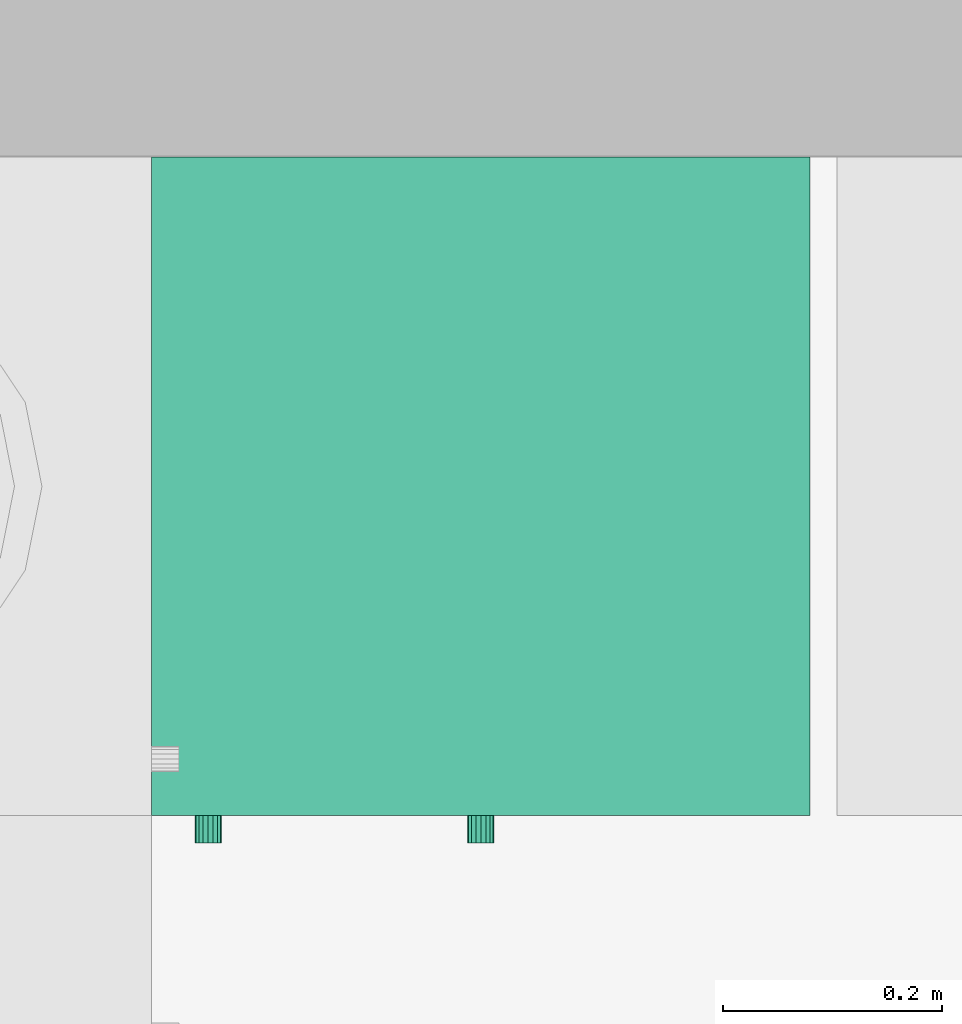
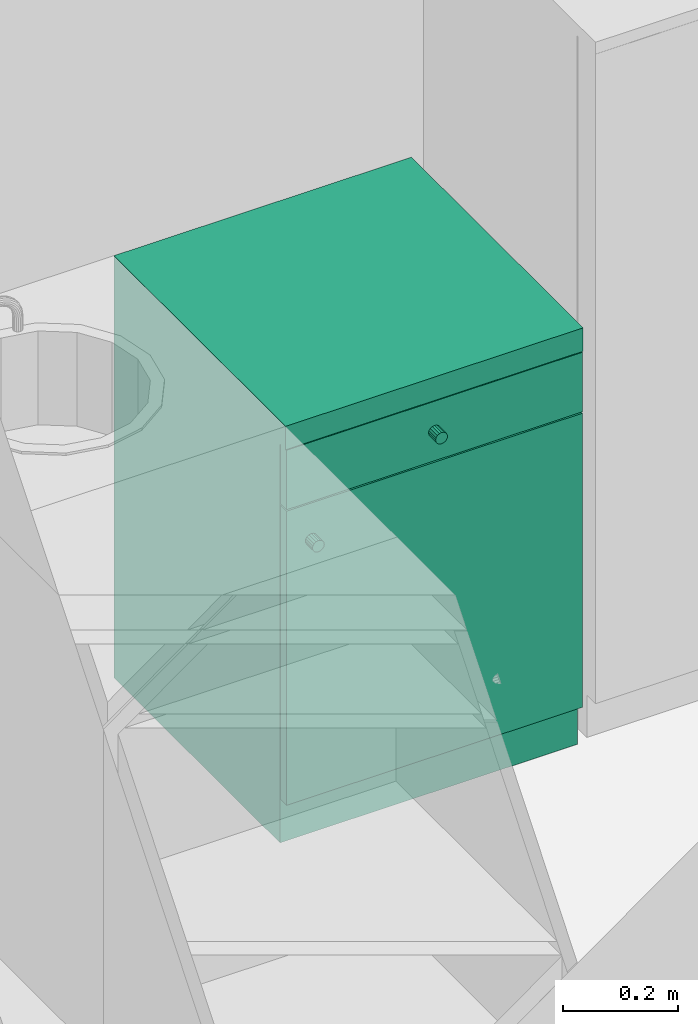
# One storey, part 59 of 172: 1 flow terminal.
"""IFC2X3 building model written with IfcOpenShell, lengths in millimetres."""

from ifc_helpers import new_model, entity, si_unit, converted_unit, money_unit, direction, frame, origin_with_axes, place, context, subcontext, project, spatial, faceted_brep, source, transform, mapped, material, material_list, type_object, element, save


model = new_model("IFC2X3")

# Units and contexts
model_context = context("Model", 3, precision=1e-05, world=origin_with_axes(), true_north=direction((0.0, 1.0)))
body_context = subcontext(model_context, "Body", "Model", "MODEL_VIEW")
ifc_project = project(units=[si_unit("LENGTHUNIT", "METRE", prefix="MILLI"), si_unit("AREAUNIT", "SQUARE_METRE"), si_unit("VOLUMEUNIT", "CUBIC_METRE"), converted_unit("PLANEANGLEUNIT", "DEGREE", entity("IfcPlaneAngleMeasure", 0.0174532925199), si_unit("PLANEANGLEUNIT", "RADIAN"), dimensions=[0, 0, 0, 0, 0, 0, 0]), si_unit("SOLIDANGLEUNIT", "STERADIAN"), money_unit("USD"), converted_unit("TIMEUNIT", "Year", entity("IfcTimeMeasure", 31556926.0), si_unit("TIMEUNIT", "SECOND"), dimensions=[0, 0, 0, 0, 0, 0, 0]), si_unit("MASSUNIT", "GRAM"), si_unit("THERMODYNAMICTEMPERATUREUNIT", "DEGREE_CELSIUS"), si_unit("LUMINOUSINTENSITYUNIT", "LUMEN")], contexts=[model_context])

# Site, building, storey
site_placement = place(None, origin_with_axes())
site = spatial("IfcSite", under=ifc_project, at=site_placement, Name="Site", CompositionType="ELEMENT")
building_placement = place(site_placement, origin_with_axes())
building = spatial("IfcBuilding", under=site, at=building_placement, Name="Building", CompositionType="ELEMENT")
storey_placement = place(building_placement, frame((0.0, 0.0, 3200.0), z_axis=(0.0, 0.0, 1.0), x_axis=(1.0, 0.0, 0.0)))
storey = spatial("IfcBuildingStorey", under=building, at=storey_placement, Name="3KORRUS", CompositionType="ELEMENT", Elevation=3200.0)

# Flow terminal
ifc_material = material(Name="Background")
ifc_material_list = material_list([ifc_material])
sanitary_terminal_type = type_object("IfcSanitaryTerminalType", Name="Cabinet Base Single Door 19", PredefinedType="SINK")
shared_shape = source(origin_with_axes(), body_context, "Body", "Brep", [
    faceted_brep([(-20.0, 20.0, 710.0), (-20.0, 20.0, 730.0), (-580.0, 20.0, 730.0), (-580.0, 20.0, 710.0), (-20.0, 580.0, 710.0), (-20.0, 580.0, 730.0), (-580.0, 580.0, 730.0), (-580.0, 580.0, 710.0)], [[[0, 1, 2, 3]], [[4, 5, 1, 0]], [[1, 5, 6, 2]], [[3, 2, 6, 7]], [[0, 3, 7, 4]], [[7, 6, 5, 4]]]),
    faceted_brep([(0.0, 20.0, 0.0), (0.0, 20.0, 90.0), (-600.0, 20.0, 90.0), (-600.0, 20.0, 0.0), (0.0, 600.0, 0.0), (0.0, 600.0, 90.0), (-600.0, 600.0, 90.0), (-600.0, 600.0, 0.0)], [[[0, 1, 2, 3]], [[4, 5, 1, 0]], [[1, 5, 6, 2]], [[3, 2, 6, 7]], [[0, 3, 7, 4]], [[7, 6, 5, 4]]]),
    faceted_brep([(0.0, 20.0, 830.0), (0.0, 20.0, 850.0), (-20.0, 20.0, 850.0), (-20.0, 20.0, 830.0), (0.0, 600.0, 830.0), (0.0, 600.0, 850.0), (-20.0, 600.0, 850.0), (-580.0, 600.0, 850.0), (-600.0, 600.0, 850.0), (-600.0, 20.0, 850.0), (-580.0, 20.0, 850.0), (-580.0, 20.0, 830.0), (-600.0, 20.0, 830.0), (-600.0, 600.0, 830.0), (-580.0, 600.0, 830.0), (-20.0, 600.0, 830.0)], [[[0, 1, 2, 3]], [[4, 5, 1, 0]], [[1, 5, 6, 7, 8, 9, 10, 2]], [[3, 2, 10, 11]], [[0, 3, 11, 12, 13, 14, 15, 4]], [[15, 6, 5, 4]], [[14, 7, 6, 15]], [[13, 8, 7, 14]], [[12, 9, 8, 13]], [[11, 10, 9, 12]]]),
    faceted_brep([(0.0, 20.0, 90.0), (0.0, 20.0, 110.0), (-20.0, 20.0, 110.0), (-20.0, 20.0, 90.0), (0.0, 600.0, 90.0), (0.0, 600.0, 110.0), (-20.0, 600.0, 110.0), (-580.0, 600.0, 110.0), (-600.0, 600.0, 110.0), (-600.0, 20.0, 110.0), (-580.0, 20.0, 110.0), (-580.0, 20.0, 90.0), (-600.0, 20.0, 90.0), (-600.0, 600.0, 90.0), (-580.0, 600.0, 90.0), (-20.0, 600.0, 90.0)], [[[0, 1, 2, 3]], [[4, 5, 1, 0]], [[1, 5, 6, 7, 8, 9, 10, 2]], [[3, 2, 10, 11]], [[0, 3, 11, 12, 13, 14, 15, 4]], [[15, 6, 5, 4]], [[14, 7, 6, 15]], [[13, 8, 7, 14]], [[12, 9, 8, 13]], [[11, 10, 9, 12]]]),
    faceted_brep([(0.0, 20.0, 110.0), (0.0, 20.0, 830.0), (-20.0, 20.0, 830.0), (-20.0, 20.0, 110.0), (0.0, 600.0, 110.0), (0.0, 600.0, 830.0), (-600.0, 600.0, 830.0), (-600.0, 20.0, 830.0), (-580.0, 20.0, 830.0), (-580.0, 580.0, 830.0), (-20.0, 580.0, 830.0), (-20.0, 580.0, 110.0), (-580.0, 580.0, 110.0), (-580.0, 20.0, 110.0), (-600.0, 20.0, 110.0), (-600.0, 600.0, 110.0)], [[[0, 1, 2, 3]], [[4, 5, 1, 0]], [[1, 5, 6, 7, 8, 9, 10, 2]], [[3, 2, 10, 11]], [[0, 3, 11, 12, 13, 14, 15, 4]], [[15, 6, 5, 4]], [[14, 7, 6, 15]], [[13, 8, 7, 14]], [[12, 9, 8, 13]], [[11, 10, 9, 12]]]),
    faceted_brep([(-580.0, 20.0, 385.0), (-580.0, 20.0, 405.0), (-580.0, 580.0, 405.0), (-580.0, 580.0, 385.0), (-20.0, 20.0, 385.0), (-20.0, 20.0, 405.0), (-20.0, 580.0, 405.0), (-20.0, 580.0, 385.0)], [[[0, 1, 2, 3]], [[4, 5, 1, 0]], [[1, 5, 6, 2]], [[3, 2, 6, 7]], [[0, 3, 7, 4]], [[7, 6, 5, 4]]]),
    faceted_brep([(0.0, 0.0, 850.0), (0.0, 0.0, 900.0), (-600.0, 0.0, 900.0), (-600.0, 0.0, 850.0), (0.0, 600.0, 850.0), (0.0, 600.0, 900.0), (-600.0, 600.0, 900.0), (-600.0, 600.0, 850.0)], [[[0, 1, 2, 3]], [[4, 5, 1, 0]], [[1, 5, 6, 2]], [[3, 2, 6, 7]], [[0, 3, 7, 4]], [[7, 6, 5, 4]]]),
    faceted_brep([(-1.5, 20.0, 721.5), (-1.5, 0.0, 721.5), (-598.5, 0.0, 721.5), (-598.5, 20.0, 721.5), (-1.5, 20.0, 848.5), (-1.5, 0.0, 848.5), (-598.5, 0.0, 848.5), (-598.5, 20.0, 848.5)], [[[0, 1, 2, 3]], [[4, 5, 1, 0]], [[1, 5, 6, 2]], [[3, 2, 6, 7]], [[0, 3, 7, 4]], [[7, 6, 5, 4]]]),
    faceted_brep([(-295.408, 0.0, 773.913), (-300.0, 0.0, 773.0), (-304.592, 0.0, 773.913), (-308.485, 0.0, 776.515), (-311.087, 0.0, 780.408), (-312.0, 0.0, 785.0), (-311.087, 0.0, 789.592), (-308.485, 0.0, 793.485), (-304.592, 0.0, 796.087), (-300.0, 0.0, 797.0), (-295.408, 0.0, 796.087), (-291.515, 0.0, 793.485), (-288.913, 0.0, 789.592), (-288.0, 0.0, 785.0), (-288.913, 0.0, 780.408), (-291.515, 0.0, 776.515), (-295.408, -25.0, 773.913), (-300.0, -25.0, 773.0), (-304.592, -25.0, 773.913), (-308.485, -25.0, 776.515), (-311.087, -25.0, 780.408), (-312.0, -25.0, 785.0), (-311.087, -25.0, 789.592), (-308.485, -25.0, 793.485), (-304.592, -25.0, 796.087), (-300.0, -25.0, 797.0), (-295.408, -25.0, 796.087), (-291.515, -25.0, 793.485), (-288.913, -25.0, 789.592), (-288.0, -25.0, 785.0), (-288.913, -25.0, 780.408), (-291.515, -25.0, 776.515)], [[[0, 1, 2, 3, 4, 5, 6, 7, 8, 9, 10, 11, 12, 13, 14, 15]], [[0, 16, 17, 1]], [[1, 17, 18, 2]], [[2, 18, 19, 3]], [[3, 19, 20, 4]], [[4, 20, 21, 5]], [[5, 21, 22, 6]], [[6, 22, 23, 7]], [[7, 23, 24, 8]], [[8, 24, 25, 9]], [[9, 25, 26, 10]], [[10, 26, 27, 11]], [[11, 27, 28, 12]], [[12, 28, 29, 13]], [[13, 29, 30, 14]], [[14, 30, 31, 15]], [[15, 31, 16, 0]], [[16, 31, 30, 29, 28, 27, 26, 25, 24, 23, 22, 21, 20, 19, 18, 17]]]),
    faceted_brep([(-1.5, 20.0, 91.5), (-1.5, 0.0, 91.5), (-598.5, 0.0, 91.5), (-598.5, 20.0, 91.5), (-1.5, 20.0, 718.5), (-1.5, 0.0, 718.5), (-598.5, 0.0, 718.5), (-598.5, 20.0, 718.5)], [[[0, 1, 2, 3]], [[4, 5, 1, 0]], [[1, 5, 6, 2]], [[3, 2, 6, 7]], [[0, 3, 7, 4]], [[7, 6, 5, 4]]]),
    faceted_brep([(-559.587, 0.0, 636.908), (-560.5, 0.0, 641.5), (-559.587, 0.0, 646.092), (-556.985, 0.0, 649.985), (-553.092, 0.0, 652.587), (-548.5, 0.0, 653.5), (-543.908, 0.0, 652.587), (-540.015, 0.0, 649.985), (-537.413, 0.0, 646.092), (-536.5, 0.0, 641.5), (-537.413, 0.0, 636.908), (-540.015, 0.0, 633.015), (-543.908, 0.0, 630.413), (-548.5, 0.0, 629.5), (-553.092, 0.0, 630.413), (-556.985, 0.0, 633.015), (-559.587, -25.0, 636.908), (-560.5, -25.0, 641.5), (-559.587, -25.0, 646.092), (-556.985, -25.0, 649.985), (-553.092, -25.0, 652.587), (-548.5, -25.0, 653.5), (-543.908, -25.0, 652.587), (-540.015, -25.0, 649.985), (-537.413, -25.0, 646.092), (-536.5, -25.0, 641.5), (-537.413, -25.0, 636.908), (-540.015, -25.0, 633.015), (-543.908, -25.0, 630.413), (-548.5, -25.0, 629.5), (-553.092, -25.0, 630.413), (-556.985, -25.0, 633.015)], [[[0, 1, 2, 3, 4, 5, 6, 7, 8, 9, 10, 11, 12, 13, 14, 15]], [[0, 16, 17, 1]], [[1, 17, 18, 2]], [[2, 18, 19, 3]], [[3, 19, 20, 4]], [[4, 20, 21, 5]], [[5, 21, 22, 6]], [[6, 22, 23, 7]], [[7, 23, 24, 8]], [[8, 24, 25, 9]], [[9, 25, 26, 10]], [[10, 26, 27, 11]], [[11, 27, 28, 12]], [[12, 28, 29, 13]], [[13, 29, 30, 14]], [[14, 30, 31, 15]], [[15, 31, 16, 0]], [[16, 31, 30, 29, 28, 27, 26, 25, 24, 23, 22, 21, 20, 19, 18, 17]]]),
])
flow_terminal_placement = place(storey_placement, frame((7209.70329669, -9967.37850445, 0.0), z_axis=(0.0, 0.0, 1.0), x_axis=(1.0, 0.0, 0.0)))
element("IfcFlowTerminal", 1, at=flow_terminal_placement, inside=storey, type_object=sanitary_terminal_type, material=ifc_material_list, Name="FU - 007", context=body_context, shape_type="MappedRepresentation", body=[
    mapped(shared_shape, transform((0.0, 0.0, 0.0))),
])

save(model, "model.ifc")
